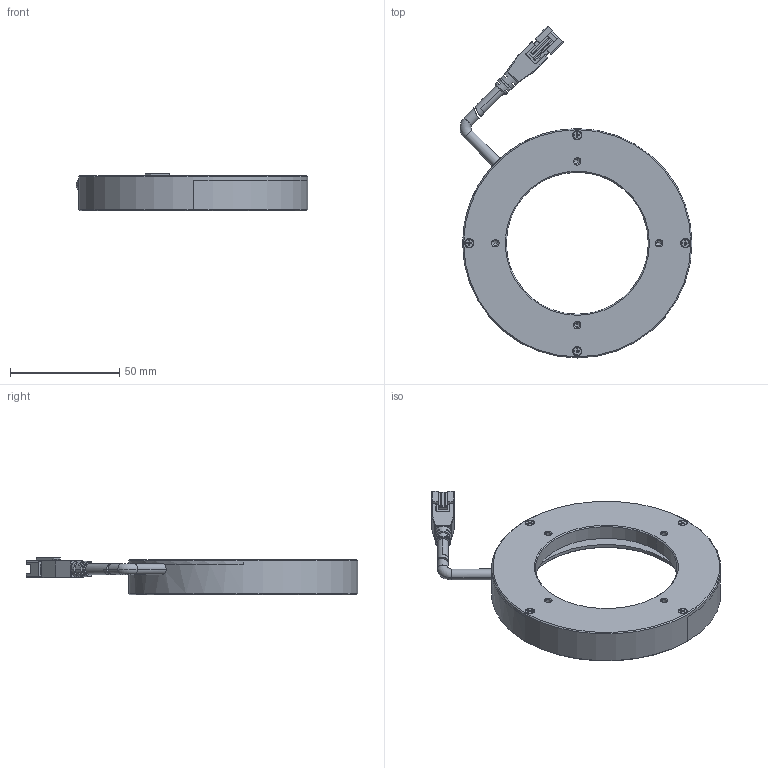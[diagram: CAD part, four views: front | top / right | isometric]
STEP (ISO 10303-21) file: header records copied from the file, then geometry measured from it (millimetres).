
FILE_DESCRIPTION((''),'2;1');
FILE_NAME('MV-LRDS-105-00-X','2023-09-15T16:39:48',('qiaoxuan5'),(''),'CREO PARAMETRIC BY PTC INC, 2020044','CREO PARAMETRIC BY PTC INC, 2020044','');
FILE_SCHEMA(('CONFIG_CONTROL_DESIGN'));
Length unit declared in the file: millimetre
Products named in the file (1): MV-LRDS-105-00-X
Bounding box: 106.17 x 151.96 x 17.2 mm (x, y, z)
Volume: 68927.5 mm3; surface area: 27682.2 mm2
Topology: 2 solids, 10 shells, 473 faces, 1158 edges, 699 vertices
Faces by surface type: plane 245, cylinder 129, cone 63, torus 18, sphere 8, bspline 8, extrusion 2
Entity records: 14422 total; most frequent: CARTESIAN_POINT 3309, DIRECTION 2342, ORIENTED_EDGE 2268, EDGE_CURVE 1134, AXIS2_PLACEMENT_3D 820, VECTOR 702, LINE 700, VERTEX_POINT 699
